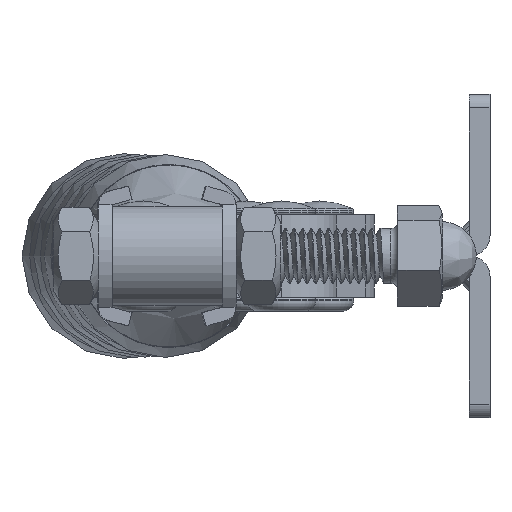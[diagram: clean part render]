
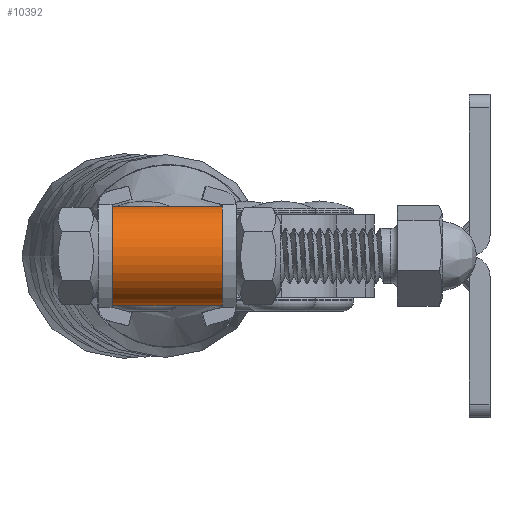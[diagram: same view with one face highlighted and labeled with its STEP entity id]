
A CAD part, left-side view. The second image highlights one B-rep face of the part: STEP entity #10392.
In plain terms, the highlighted cylindrical face has radius 7.2 mm (diameter 14.4 mm), a partial arc.
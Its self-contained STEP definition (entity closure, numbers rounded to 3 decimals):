
#969=CIRCLE('',#11277,7.2);
#970=CIRCLE('',#11279,7.2);
#1159=CYLINDRICAL_SURFACE('',#11290,7.2);
#1335=FACE_OUTER_BOUND('',#1949,.T.);
#1949=EDGE_LOOP('',(#7688,#7689,#7690,#7691));
#2583=LINE('',#14394,#3448);
#2648=LINE('',#15807,#3513);
#3448=VECTOR('',#12203,1000.);
#3513=VECTOR('',#12270,1000.);
#4339=VERTEX_POINT('',#14391);
#4340=VERTEX_POINT('',#14393);
#4517=VERTEX_POINT('',#15805);
#4518=VERTEX_POINT('',#15806);
#5480=EDGE_CURVE('',#4340,#4339,#2583,.T.);
#5658=EDGE_CURVE('',#4517,#4518,#2648,.T.);
#5796=EDGE_CURVE('',#4340,#4517,#969,.T.);
#5797=EDGE_CURVE('',#4518,#4339,#970,.T.);
#7688=ORIENTED_EDGE('',*,*,#5480,.T.);
#7689=ORIENTED_EDGE('',*,*,#5797,.F.);
#7690=ORIENTED_EDGE('',*,*,#5658,.F.);
#7691=ORIENTED_EDGE('',*,*,#5796,.F.);
#10392=ADVANCED_FACE('',(#1335),#1159,.T.);
#11277=AXIS2_PLACEMENT_3D('',#16675,#12435,#12436);
#11279=AXIS2_PLACEMENT_3D('',#16677,#12439,#12440);
#11290=AXIS2_PLACEMENT_3D('',#16703,#12469,#12470);
#12203=DIRECTION('',(0.,-1.,0.));
#12270=DIRECTION('',(0.,-1.,0.));
#12435=DIRECTION('center_axis',(0.,1.,0.));
#12436=DIRECTION('ref_axis',(1.,0.,0.));
#12439=DIRECTION('center_axis',(0.,-1.,0.));
#12440=DIRECTION('ref_axis',(-1.,0.,0.));
#12469=DIRECTION('center_axis',(0.,-1.,0.));
#12470=DIRECTION('ref_axis',(0.,0.,-1.));
#14391=CARTESIAN_POINT('',(-58.8,-11.,0.));
#14393=CARTESIAN_POINT('',(-58.8,5.,0.));
#14394=CARTESIAN_POINT('',(-58.8,8.,0.));
#15805=CARTESIAN_POINT('',(-58.8,5.,14.4));
#15806=CARTESIAN_POINT('',(-58.8,-11.,14.4));
#15807=CARTESIAN_POINT('',(-58.8,8.,14.4));
#16675=CARTESIAN_POINT('Origin',(-58.8,5.,7.2));
#16677=CARTESIAN_POINT('Origin',(-58.8,-11.,7.2));
#16703=CARTESIAN_POINT('Origin',(-58.8,8.,7.2));
